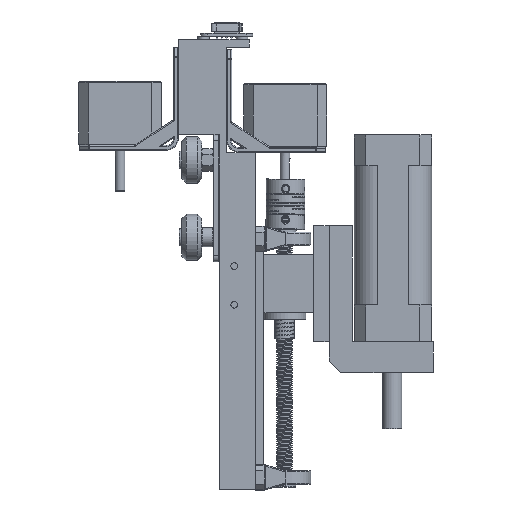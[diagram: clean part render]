
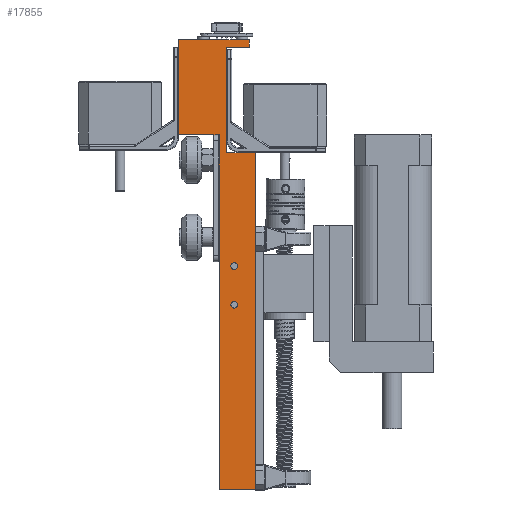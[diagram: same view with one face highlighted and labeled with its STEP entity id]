
A CAD part, left-side view. The second image highlights one B-rep face of the part: STEP entity #17855.
In plain terms, the highlighted planar face has unit normal (-1, 0, 0).
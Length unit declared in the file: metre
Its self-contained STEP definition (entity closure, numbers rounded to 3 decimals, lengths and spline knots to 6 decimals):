
#1866=LINE('',#39769,#3010);
#1883=LINE('',#39820,#3027);
#1902=LINE('',#39867,#3046);
#1920=LINE('',#39920,#3064);
#1921=LINE('',#39922,#3065);
#1922=LINE('',#39924,#3066);
#1923=LINE('',#39926,#3067);
#1924=LINE('',#39928,#3068);
#1925=LINE('',#39929,#3069);
#1926=LINE('',#39930,#3070);
#3010=VECTOR('',#24179,1.);
#3027=VECTOR('',#24214,1.);
#3046=VECTOR('',#24243,1.);
#3064=VECTOR('',#24301,1.);
#3065=VECTOR('',#24302,1.);
#3066=VECTOR('',#24303,1.);
#3067=VECTOR('',#24304,1.);
#3068=VECTOR('',#24305,1.);
#3069=VECTOR('',#24306,1.);
#3070=VECTOR('',#24307,1.);
#3647=PLANE('',#20376);
#7461=ORIENTED_EDGE('',*,*,#10540,.T.);
#7462=ORIENTED_EDGE('',*,*,#10541,.T.);
#7463=ORIENTED_EDGE('',*,*,#10466,.F.);
#7464=ORIENTED_EDGE('',*,*,#10542,.F.);
#7465=ORIENTED_EDGE('',*,*,#10543,.T.);
#7466=ORIENTED_EDGE('',*,*,#10544,.F.);
#7467=ORIENTED_EDGE('',*,*,#10545,.T.);
#7468=ORIENTED_EDGE('',*,*,#10546,.T.);
#7469=ORIENTED_EDGE('',*,*,#10491,.T.);
#7470=ORIENTED_EDGE('',*,*,#10547,.T.);
#7471=ORIENTED_EDGE('',*,*,#10514,.F.);
#7472=ORIENTED_EDGE('',*,*,#10548,.T.);
#10466=EDGE_CURVE('',#12393,#12394,#1866,.T.);
#10491=EDGE_CURVE('',#12416,#12418,#1883,.T.);
#10514=EDGE_CURVE('',#12441,#12442,#1902,.T.);
#10540=EDGE_CURVE('',#12455,#12455,#13418,.F.);
#10541=EDGE_CURVE('',#12456,#12456,#13419,.F.);
#10542=EDGE_CURVE('',#12457,#12393,#1920,.T.);
#10543=EDGE_CURVE('',#12457,#12458,#1921,.T.);
#10544=EDGE_CURVE('',#12459,#12458,#1922,.T.);
#10545=EDGE_CURVE('',#12459,#12460,#1923,.T.);
#10546=EDGE_CURVE('',#12460,#12416,#1924,.T.);
#10547=EDGE_CURVE('',#12418,#12442,#1925,.T.);
#10548=EDGE_CURVE('',#12441,#12394,#1926,.T.);
#12393=VERTEX_POINT('',#39768);
#12394=VERTEX_POINT('',#39770);
#12416=VERTEX_POINT('',#39815);
#12418=VERTEX_POINT('',#39819);
#12441=VERTEX_POINT('',#39866);
#12442=VERTEX_POINT('',#39868);
#12455=VERTEX_POINT('',#39917);
#12456=VERTEX_POINT('',#39919);
#12457=VERTEX_POINT('',#39921);
#12458=VERTEX_POINT('',#39923);
#12459=VERTEX_POINT('',#39925);
#12460=VERTEX_POINT('',#39927);
#13418=CIRCLE('',#20377,0.00175);
#13419=CIRCLE('',#20378,0.00175);
#14649=EDGE_LOOP('',(#7461));
#14650=EDGE_LOOP('',(#7462));
#14651=EDGE_LOOP('',(#7463,#7464,#7465,#7466,#7467,#7468,#7469,#7470,#7471,
#7472));
#16176=FACE_BOUND('',#14649,.T.);
#16177=FACE_BOUND('',#14650,.T.);
#16178=FACE_BOUND('',#14651,.T.);
#17855=ADVANCED_FACE('',(#16176,#16177,#16178),#3647,.T.);
#20376=AXIS2_PLACEMENT_3D('',#39915,#24295,#24296);
#20377=AXIS2_PLACEMENT_3D('',#39916,#24297,#24298);
#20378=AXIS2_PLACEMENT_3D('',#39918,#24299,#24300);
#24179=DIRECTION('',(0.,0.,-1.));
#24214=DIRECTION('',(0.,0.,-1.));
#24243=DIRECTION('',(0.,0.,-1.));
#24295=DIRECTION('',(-1.,0.,0.));
#24296=DIRECTION('',(0.,0.,1.));
#24297=DIRECTION('',(-1.,0.,0.));
#24298=DIRECTION('',(0.,0.,1.));
#24299=DIRECTION('',(-1.,0.,0.));
#24300=DIRECTION('',(0.,0.,1.));
#24301=DIRECTION('',(0.,1.,0.));
#24302=DIRECTION('',(0.,0.,1.));
#24303=DIRECTION('',(0.,-1.,0.));
#24304=DIRECTION('',(0.,0.,-1.));
#24305=DIRECTION('',(0.,-1.,0.));
#24306=DIRECTION('',(0.,-1.,0.));
#24307=DIRECTION('',(0.,1.,0.));
#39768=CARTESIAN_POINT('',(-0.021408,0.,0.181201));
#39769=CARTESIAN_POINT('',(-0.021408,0.,0.155551));
#39770=CARTESIAN_POINT('',(-0.021408,0.,0.126751));
#39815=CARTESIAN_POINT('',(-0.021408,0.004,0.135901));
#39819=CARTESIAN_POINT('',(-0.021408,0.004,-0.047779));
#39820=CARTESIAN_POINT('',(-0.021408,0.004,0.155551));
#39866=CARTESIAN_POINT('',(-0.021408,-0.014841,0.126751));
#39867=CARTESIAN_POINT('',(-0.021408,-0.014841,0.039486));
#39868=CARTESIAN_POINT('',(-0.021408,-0.014841,-0.047779));
#39915=CARTESIAN_POINT('',(-0.021408,0.004,0.155551));
#39916=CARTESIAN_POINT('',(-0.021408,-0.003841,0.048021));
#39917=CARTESIAN_POINT('',(-0.021408,-0.003841,0.049771));
#39918=CARTESIAN_POINT('',(-0.021408,-0.003841,0.068021));
#39919=CARTESIAN_POINT('',(-0.021408,-0.003841,0.069771));
#39920=CARTESIAN_POINT('',(-0.021408,-0.01159,0.181201));
#39921=CARTESIAN_POINT('',(-0.021408,-0.01159,0.181201));
#39922=CARTESIAN_POINT('',(-0.021408,-0.01159,0.183201));
#39923=CARTESIAN_POINT('',(-0.021408,-0.01159,0.185201));
#39924=CARTESIAN_POINT('',(-0.021408,0.004,0.185201));
#39925=CARTESIAN_POINT('',(-0.021408,0.025,0.185201));
#39926=CARTESIAN_POINT('',(-0.021408,0.025,0.155551));
#39927=CARTESIAN_POINT('',(-0.021408,0.025,0.135901));
#39928=CARTESIAN_POINT('',(-0.021408,0.025,0.135901));
#39929=CARTESIAN_POINT('',(-0.021408,0.004,-0.047779));
#39930=CARTESIAN_POINT('',(-0.021408,-0.014841,0.126751));
